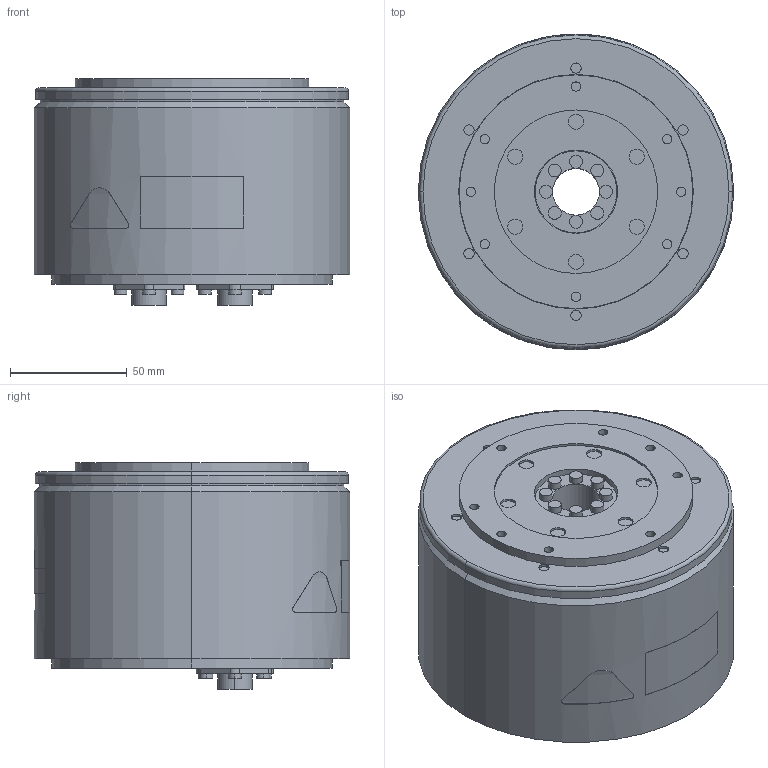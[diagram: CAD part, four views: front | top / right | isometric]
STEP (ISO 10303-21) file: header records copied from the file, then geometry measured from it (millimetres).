
FILE_DESCRIPTION (( 'STEP AP203' ), '1' );
FILE_NAME ('sgm7e_05b_a1_.STEP', '2016-06-02T07:39:13', ( '' ), ( '' ), 'SwSTEP 2.0', 'SolidWorks 2010', '' );
FILE_SCHEMA (( 'CONFIG_CONTROL_DESIGN' ));
Length unit declared in the file: millimetre
Products named in the file (1): sgm7e_05b_a1_
Bounding box: 135 x 135.1 x 97.1 mm (x, y, z)
Volume: 1187411.1 mm3; surface area: 76375.1 mm2
Topology: 1 solids, 1 shells, 323 faces, 703 edges, 466 vertices
Faces by surface type: cylinder 180, plane 132, bspline 5, cone 4, torus 2
Entity records: 9686 total; most frequent: CARTESIAN_POINT 2158, DIRECTION 1707, ORIENTED_EDGE 1406, EDGE_CURVE 703, AXIS2_PLACEMENT_3D 701, VERTEX_POINT 466, EDGE_LOOP 409, CIRCLE 382
